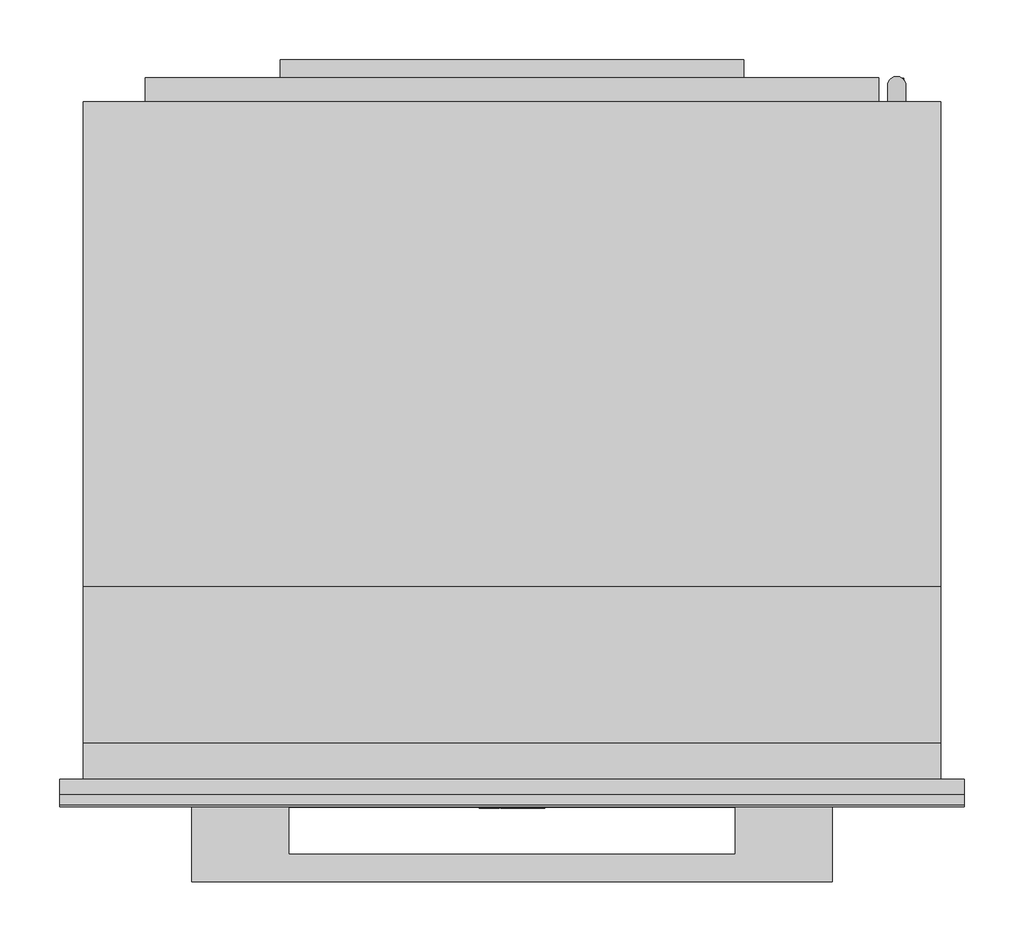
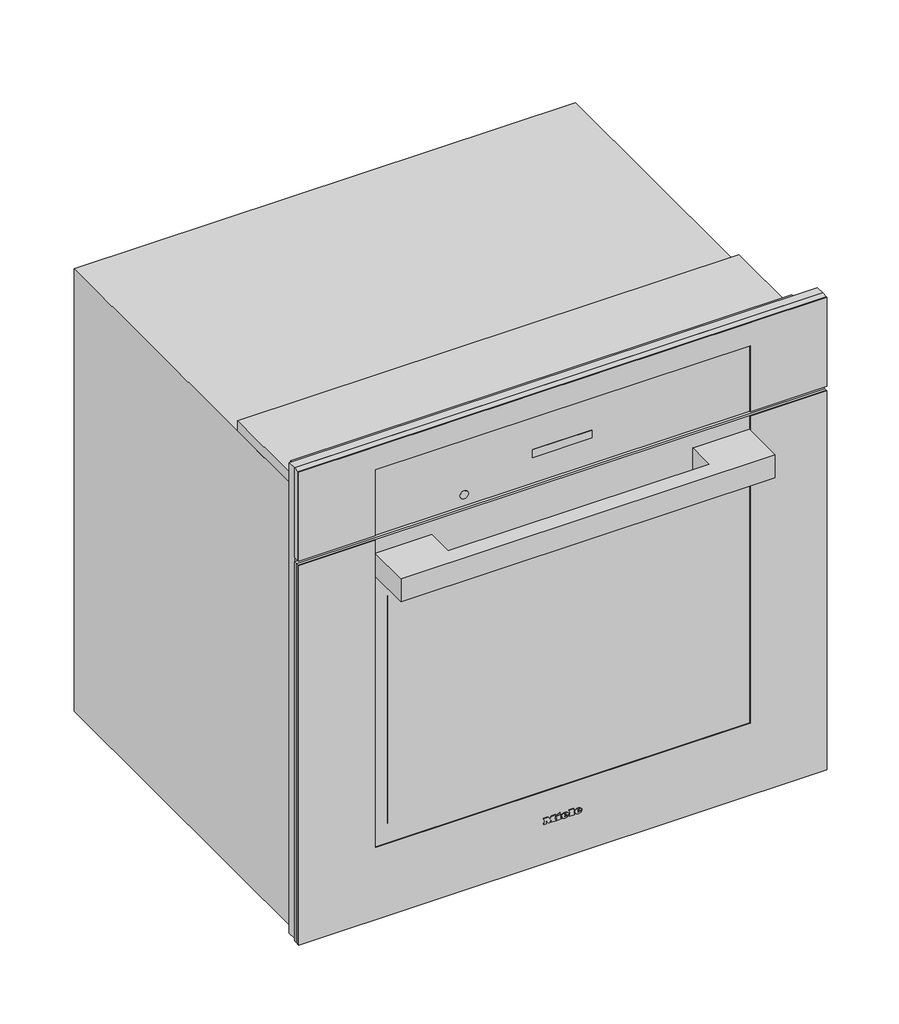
# Not in any storey: 1 proxy.
"""IFC4 building model written with IfcOpenShell, lengths in millimetres."""

from ifc_helpers import new_model, si_unit, origin, place, context, project, spatial, transform, mapped, element, save
from components import specialty_equipment_10852f7c

model = new_model("IFC4")

# Units and contexts
model_context = context("Model", 3, world=origin())
ifc_project = project(units=[si_unit("LENGTHUNIT", "METRE", prefix="MILLI")], contexts=[model_context])

# Site, building
site = spatial("IfcSite", under=ifc_project)
building = spatial("IfcBuilding", under=site)

# Proxy
placement = place(None, origin())
specialty_equipment_shape = specialty_equipment_10852f7c(model_context)
element("IfcBuildingElementProxy", 1, Name="11805340_USA_H7180BP_EDST-CLST : 22718045_USA_11805340_H7180BP_EDST-CLST", ObjectType="11805340_USA_H7180BP_EDST-CLST : 22718045_USA_11805340_H7180BP_EDST-CLST", at=placement, inside=building, context=model_context, shape_type="MappedRepresentation", body=[
    mapped(specialty_equipment_shape, transform((0.0, 0.0, 0.0), x_axis=(1.0, 0.0, 0.0), y_axis=(0.0, 1.0, 0.0), z_axis=(0.0, 0.0, 1.0))),
])

save(model, "model.ifc")
